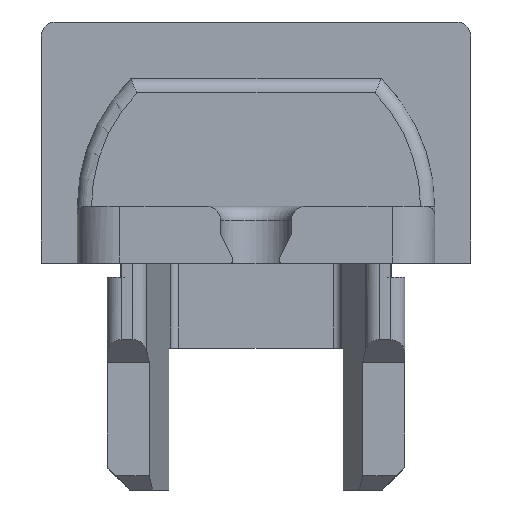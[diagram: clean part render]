
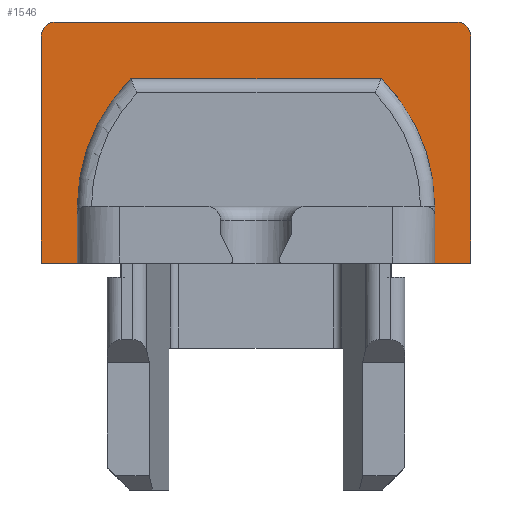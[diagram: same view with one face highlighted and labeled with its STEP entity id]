
A CAD part, front view. The second image highlights one B-rep face of the part: STEP entity #1546.
In plain terms, the highlighted planar face has unit normal (0, -1, 0).
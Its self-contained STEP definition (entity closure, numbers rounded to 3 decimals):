
#55 = DIRECTION ( 'NONE',  ( 0., 0., -1. ) ) ;
#134 = CARTESIAN_POINT ( 'NONE',  ( 6.3, 11.5, 1.7 ) ) ;
#267 = EDGE_CURVE ( 'NONE', #5276, #8059, #4656, .T. ) ;
#281 = CARTESIAN_POINT ( 'NONE',  ( 6.3, 11.5, 2. ) ) ;
#577 = CARTESIAN_POINT ( 'NONE',  ( 6.3, 11.5, 2. ) ) ;
#586 = DIRECTION ( 'NONE',  ( -1., 0., 0. ) ) ;
#854 = CARTESIAN_POINT ( 'NONE',  ( 6.3, 11.5, 0. ) ) ;
#1178 = LINE ( 'NONE', #10348, #11182 ) ;
#1253 = VECTOR ( 'NONE', #15195, 1000. ) ;
#1405 = DIRECTION ( 'NONE',  ( 0., 0., -1. ) ) ;
#1546 = ADVANCED_FACE ( 'NONE', ( #5466 ), #7862, .F. ) ;
#1556 = VERTEX_POINT ( 'NONE', #9018 ) ;
#1682 = DIRECTION ( 'NONE',  ( 1., 0., 0. ) ) ;
#1826 = EDGE_CURVE ( 'NONE', #6085, #11862, #8318, .T. ) ;
#1883 = LINE ( 'NONE', #12580, #13969 ) ;
#2099 = DIRECTION ( 'NONE',  ( 0., 0., -1. ) ) ;
#2255 = EDGE_CURVE ( 'NONE', #11841, #1556, #6443, .T. ) ;
#2508 = DIRECTION ( 'NONE',  ( 0., 0., -1. ) ) ;
#2572 = CIRCLE ( 'NONE', #6976, 0.5 ) ;
#2816 = DIRECTION ( 'NONE',  ( 1., 0., 0. ) ) ;
#2950 = EDGE_CURVE ( 'NONE', #5917, #6085, #9345, .T. ) ;
#3168 = CARTESIAN_POINT ( 'NONE',  ( -6.3, 11.5, 2. ) ) ;
#3250 = CARTESIAN_POINT ( 'NONE',  ( -6.3, 11.5, 2. ) ) ;
#3383 = CARTESIAN_POINT ( 'NONE',  ( -7.575, 11.5, 0. ) ) ;
#3451 = VERTEX_POINT ( 'NONE', #9695 ) ;
#3470 = ORIENTED_EDGE ( 'NONE', *, *, #2950, .T. ) ;
#3645 = CARTESIAN_POINT ( 'NONE',  ( 7.575, 11.5, 2. ) ) ;
#3689 = VECTOR ( 'NONE', #12164, 1000. ) ;
#4003 = ORIENTED_EDGE ( 'NONE', *, *, #7186, .F. ) ;
#4044 = CARTESIAN_POINT ( 'NONE',  ( -4.409, 11.5, 6.5 ) ) ;
#4100 = DIRECTION ( 'NONE',  ( 1., 0., 0. ) ) ;
#4290 = CARTESIAN_POINT ( 'NONE',  ( -6.3, 11.5, 2. ) ) ;
#4346 = EDGE_CURVE ( 'NONE', #10457, #5337, #2572, .T. ) ;
#4656 = CIRCLE ( 'NONE', #11786, 6.3 ) ;
#4699 = CARTESIAN_POINT ( 'NONE',  ( 7.575, 11.5, 0. ) ) ;
#4820 = ORIENTED_EDGE ( 'NONE', *, *, #1826, .T. ) ;
#4887 = DIRECTION ( 'NONE',  ( 0., 0., 1. ) ) ;
#5038 = VERTEX_POINT ( 'NONE', #15131 ) ;
#5039 = CARTESIAN_POINT ( 'NONE',  ( 7.075, 11.5, 8. ) ) ;
#5097 = DIRECTION ( 'NONE',  ( 0., -1., 0. ) ) ;
#5132 = CARTESIAN_POINT ( 'NONE',  ( -6.3, 11.5, 0. ) ) ;
#5276 = VERTEX_POINT ( 'NONE', #4044 ) ;
#5337 = VERTEX_POINT ( 'NONE', #7647 ) ;
#5378 = ORIENTED_EDGE ( 'NONE', *, *, #4346, .T. ) ;
#5392 = EDGE_CURVE ( 'NONE', #5038, #11841, #1178, .T. ) ;
#5466 = FACE_OUTER_BOUND ( 'NONE', #12691, .T. ) ;
#5700 = CARTESIAN_POINT ( 'NONE',  ( 7.575, 11.5, 8. ) ) ;
#5917 = VERTEX_POINT ( 'NONE', #9390 ) ;
#6085 = VERTEX_POINT ( 'NONE', #134 ) ;
#6220 = EDGE_CURVE ( 'NONE', #5917, #3451, #8555, .T. ) ;
#6345 = EDGE_CURVE ( 'NONE', #3451, #5276, #1883, .T. ) ;
#6443 = LINE ( 'NONE', #5132, #7340 ) ;
#6734 = DIRECTION ( 'NONE',  ( 0., 0., -1. ) ) ;
#6782 = ORIENTED_EDGE ( 'NONE', *, *, #6345, .F. ) ;
#6866 = VECTOR ( 'NONE', #6734, 1000. ) ;
#6976 = AXIS2_PLACEMENT_3D ( 'NONE', #5039, #9743, #4887 ) ;
#7086 = EDGE_CURVE ( 'NONE', #10457, #13002, #11725, .T. ) ;
#7110 = EDGE_CURVE ( 'NONE', #12137, #5038, #10060, .T. ) ;
#7186 = EDGE_CURVE ( 'NONE', #9077, #1556, #13705, .T. ) ;
#7340 = VECTOR ( 'NONE', #1682, 1000. ) ;
#7574 = ORIENTED_EDGE ( 'NONE', *, *, #267, .F. ) ;
#7626 = ORIENTED_EDGE ( 'NONE', *, *, #7086, .F. ) ;
#7647 = CARTESIAN_POINT ( 'NONE',  ( 7.075, 11.5, 8.5 ) ) ;
#7862 = PLANE ( 'NONE',  #9843 ) ;
#7893 = CARTESIAN_POINT ( 'NONE',  ( -7.575, 11.5, 8.5 ) ) ;
#7947 = DIRECTION ( 'NONE',  ( 0., 0., -1. ) ) ;
#7969 = LINE ( 'NONE', #7893, #3689 ) ;
#8059 = VERTEX_POINT ( 'NONE', #3168 ) ;
#8110 = LINE ( 'NONE', #12811, #1253 ) ;
#8144 = ORIENTED_EDGE ( 'NONE', *, *, #6220, .F. ) ;
#8318 = LINE ( 'NONE', #10946, #11527 ) ;
#8486 = DIRECTION ( 'NONE',  ( 0., 0., 1. ) ) ;
#8555 = CIRCLE ( 'NONE', #12988, 6.3 ) ;
#8795 = DIRECTION ( 'NONE',  ( 0., 1., 0. ) ) ;
#8992 = EDGE_CURVE ( 'NONE', #8059, #9077, #14837, .T. ) ;
#9018 = CARTESIAN_POINT ( 'NONE',  ( -6.3, 11.5, 0. ) ) ;
#9077 = VERTEX_POINT ( 'NONE', #13900 ) ;
#9312 = VECTOR ( 'NONE', #2099, 1000. ) ;
#9345 = LINE ( 'NONE', #281, #14170 ) ;
#9390 = CARTESIAN_POINT ( 'NONE',  ( 6.3, 11.5, 2. ) ) ;
#9695 = CARTESIAN_POINT ( 'NONE',  ( 4.409, 11.5, 6.5 ) ) ;
#9743 = DIRECTION ( 'NONE',  ( 0., -1., 0. ) ) ;
#9843 = AXIS2_PLACEMENT_3D ( 'NONE', #577, #8795, #11116 ) ;
#10060 = CIRCLE ( 'NONE', #14228, 0.5 ) ;
#10198 = EDGE_CURVE ( 'NONE', #11862, #13002, #8110, .T. ) ;
#10348 = CARTESIAN_POINT ( 'NONE',  ( -7.575, 11.5, 2. ) ) ;
#10457 = VERTEX_POINT ( 'NONE', #5700 ) ;
#10543 = VECTOR ( 'NONE', #2508, 1000. ) ;
#10748 = ORIENTED_EDGE ( 'NONE', *, *, #10198, .T. ) ;
#10946 = CARTESIAN_POINT ( 'NONE',  ( 6.3, 11.5, 2. ) ) ;
#10959 = DIRECTION ( 'NONE',  ( 0., -1., 0. ) ) ;
#11112 = CARTESIAN_POINT ( 'NONE',  ( -7.075, 11.5, 8. ) ) ;
#11116 = DIRECTION ( 'NONE',  ( 0., 0., 1. ) ) ;
#11182 = VECTOR ( 'NONE', #7947, 1000. ) ;
#11231 = CARTESIAN_POINT ( 'NONE',  ( -7.075, 11.5, 8.5 ) ) ;
#11527 = VECTOR ( 'NONE', #1405, 1000. ) ;
#11700 = ORIENTED_EDGE ( 'NONE', *, *, #13213, .F. ) ;
#11725 = LINE ( 'NONE', #3645, #10543 ) ;
#11786 = AXIS2_PLACEMENT_3D ( 'NONE', #12249, #13699, #4100 ) ;
#11841 = VERTEX_POINT ( 'NONE', #3383 ) ;
#11862 = VERTEX_POINT ( 'NONE', #854 ) ;
#12137 = VERTEX_POINT ( 'NONE', #11231 ) ;
#12164 = DIRECTION ( 'NONE',  ( 1., 0., 0. ) ) ;
#12249 = CARTESIAN_POINT ( 'NONE',  ( 0., 11.5, 2. ) ) ;
#12580 = CARTESIAN_POINT ( 'NONE',  ( -4.409, 11.5, 6.5 ) ) ;
#12691 = EDGE_LOOP ( 'NONE', ( #7626, #5378, #11700, #14965, #12875, #14568, #4003, #14046, #7574, #6782, #8144, #3470, #4820, #10748 ) ) ;
#12811 = CARTESIAN_POINT ( 'NONE',  ( 6.3, 11.5, 0. ) ) ;
#12875 = ORIENTED_EDGE ( 'NONE', *, *, #5392, .T. ) ;
#12988 = AXIS2_PLACEMENT_3D ( 'NONE', #13271, #5097, #2816 ) ;
#13002 = VERTEX_POINT ( 'NONE', #4699 ) ;
#13213 = EDGE_CURVE ( 'NONE', #12137, #5337, #7969, .T. ) ;
#13271 = CARTESIAN_POINT ( 'NONE',  ( 0., 11.5, 2. ) ) ;
#13699 = DIRECTION ( 'NONE',  ( 0., -1., 0. ) ) ;
#13705 = LINE ( 'NONE', #3250, #9312 ) ;
#13900 = CARTESIAN_POINT ( 'NONE',  ( -6.3, 11.5, 1.7 ) ) ;
#13969 = VECTOR ( 'NONE', #586, 1000. ) ;
#14046 = ORIENTED_EDGE ( 'NONE', *, *, #8992, .F. ) ;
#14170 = VECTOR ( 'NONE', #55, 1000. ) ;
#14228 = AXIS2_PLACEMENT_3D ( 'NONE', #11112, #10959, #8486 ) ;
#14568 = ORIENTED_EDGE ( 'NONE', *, *, #2255, .T. ) ;
#14837 = LINE ( 'NONE', #4290, #6866 ) ;
#14965 = ORIENTED_EDGE ( 'NONE', *, *, #7110, .T. ) ;
#15131 = CARTESIAN_POINT ( 'NONE',  ( -7.575, 11.5, 8. ) ) ;
#15195 = DIRECTION ( 'NONE',  ( 1., 0., 0. ) ) ;
